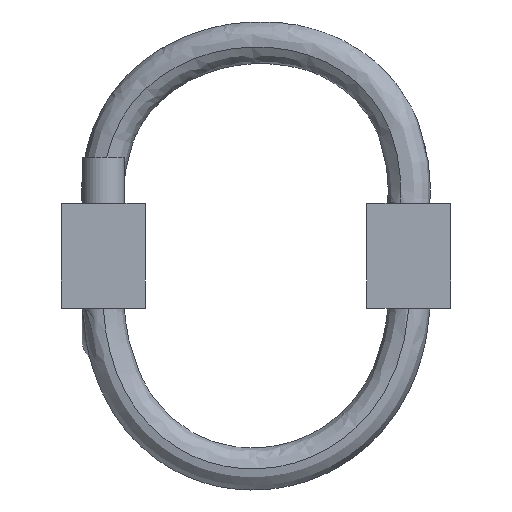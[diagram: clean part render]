
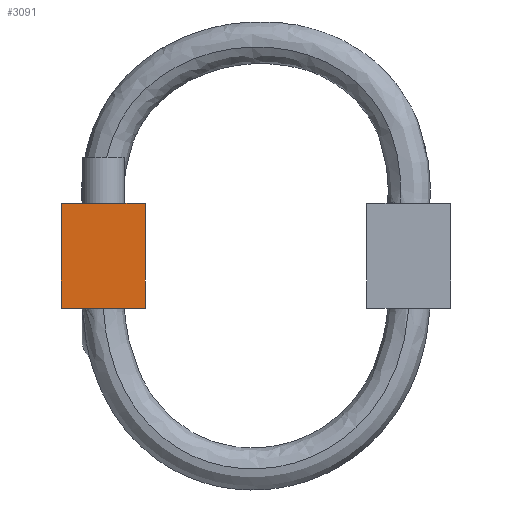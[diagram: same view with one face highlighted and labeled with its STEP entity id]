
A CAD part, left-side view. The second image highlights one B-rep face of the part: STEP entity #3091.
In plain terms, the highlighted planar face has unit normal (-1, 0, 0).
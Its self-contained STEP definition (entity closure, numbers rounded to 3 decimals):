
#202 = VERTEX_POINT ( 'NONE', #9279 ) ;
#470 = LINE ( 'NONE', #8452, #19554 ) ;
#851 = ORIENTED_EDGE ( 'NONE', *, *, #2706, .F. ) ;
#1054 = DIRECTION ( 'NONE',  ( 0., 0., -1. ) ) ;
#2545 = CARTESIAN_POINT ( 'NONE',  ( -73.05, 29.5, -7.95 ) ) ;
#2706 = EDGE_CURVE ( 'NONE', #20328, #4694, #7693, .T. ) ;
#2730 = VECTOR ( 'NONE', #9838, 1000. ) ;
#3091 = ADVANCED_FACE ( 'NONE', ( #23197 ), #15959, .T. ) ;
#3129 = AXIS2_PLACEMENT_3D ( 'NONE', #12262, #4849, #17803 ) ;
#4694 = VERTEX_POINT ( 'NONE', #5627 ) ;
#4849 = DIRECTION ( 'NONE',  ( -1., 0., 0. ) ) ;
#5627 = CARTESIAN_POINT ( 'NONE',  ( -73.05, 29.5, 7.95 ) ) ;
#5872 = LINE ( 'NONE', #19855, #20565 ) ;
#5964 = VECTOR ( 'NONE', #9173, 1000. ) ;
#7693 = LINE ( 'NONE', #20819, #2730 ) ;
#8452 = CARTESIAN_POINT ( 'NONE',  ( -73.05, 16.8, -7.95 ) ) ;
#8857 = DIRECTION ( 'NONE',  ( 0., 1., 0. ) ) ;
#9173 = DIRECTION ( 'NONE',  ( 0., -1., 0. ) ) ;
#9279 = CARTESIAN_POINT ( 'NONE',  ( -73.05, 16.8, -7.95 ) ) ;
#9753 = LINE ( 'NONE', #21959, #5964 ) ;
#9838 = DIRECTION ( 'NONE',  ( 0., 0., 1. ) ) ;
#12262 = CARTESIAN_POINT ( 'NONE',  ( -73.05, 23.15, 0. ) ) ;
#13481 = EDGE_CURVE ( 'NONE', #19572, #202, #470, .T. ) ;
#14317 = CARTESIAN_POINT ( 'NONE',  ( -73.05, 16.8, 7.95 ) ) ;
#15382 = ORIENTED_EDGE ( 'NONE', *, *, #16695, .F. ) ;
#15959 = PLANE ( 'NONE',  #3129 ) ;
#16221 = EDGE_LOOP ( 'NONE', ( #15382, #851, #20224, #17660 ) ) ;
#16695 = EDGE_CURVE ( 'NONE', #4694, #19572, #9753, .T. ) ;
#17660 = ORIENTED_EDGE ( 'NONE', *, *, #13481, .F. ) ;
#17803 = DIRECTION ( 'NONE',  ( 0., 0., 1. ) ) ;
#19554 = VECTOR ( 'NONE', #1054, 1000. ) ;
#19572 = VERTEX_POINT ( 'NONE', #14317 ) ;
#19855 = CARTESIAN_POINT ( 'NONE',  ( -73.05, 29.5, -7.95 ) ) ;
#20224 = ORIENTED_EDGE ( 'NONE', *, *, #20659, .F. ) ;
#20328 = VERTEX_POINT ( 'NONE', #2545 ) ;
#20565 = VECTOR ( 'NONE', #8857, 1000. ) ;
#20659 = EDGE_CURVE ( 'NONE', #202, #20328, #5872, .T. ) ;
#20819 = CARTESIAN_POINT ( 'NONE',  ( -73.05, 29.5, -7.95 ) ) ;
#21959 = CARTESIAN_POINT ( 'NONE',  ( -73.05, 29.5, 7.95 ) ) ;
#23197 = FACE_OUTER_BOUND ( 'NONE', #16221, .T. ) ;
